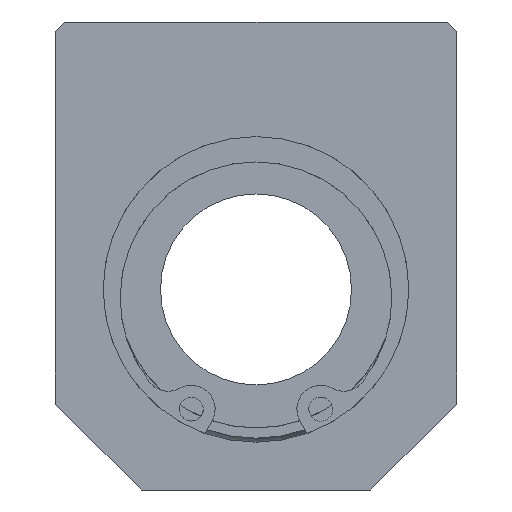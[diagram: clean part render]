
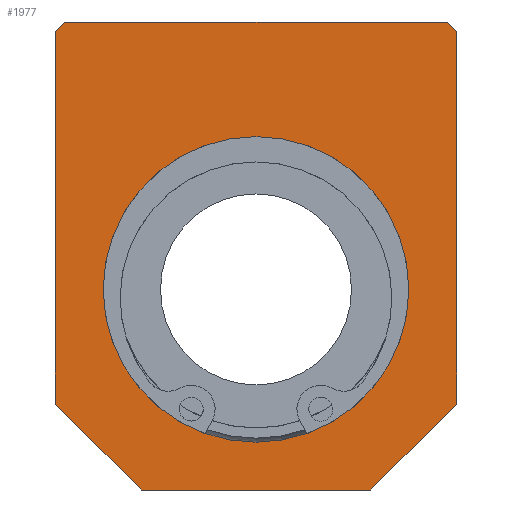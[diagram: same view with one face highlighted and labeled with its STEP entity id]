
A CAD part, left-side view. The second image highlights one B-rep face of the part: STEP entity #1977.
In plain terms, the highlighted planar face has unit normal (-1, 0, 0).
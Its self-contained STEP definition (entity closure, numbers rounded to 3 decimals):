
#1879=CARTESIAN_POINT('',(0.0,-20.,28.0));
#1880=VERTEX_POINT('',#1879);
#1887=CARTESIAN_POINT('',(0.0,-21.,27.));
#1888=VERTEX_POINT('',#1887);
#1889=CARTESIAN_POINT('',(0.0,-20.,28.0));
#1890=DIRECTION('',(0.0,-0.707,-0.707));
#1891=VECTOR('',#1890,1.414);
#1892=LINE('',#1889,#1891);
#1893=EDGE_CURVE('',#1880,#1888,#1892,.T.);
#1904=CARTESIAN_POINT('',(0.0,0.0,3.5));
#1905=DIRECTION('',(1.0,0.0,0.0));
#1906=DIRECTION('',(0.0,0.0,-1.0));
#1907=AXIS2_PLACEMENT_3D('',#1904,#1905,#1906);
#1908=PLANE('',#1907);
#1909=ORIENTED_EDGE('',*,*,#1893,.F.);
#1910=CARTESIAN_POINT('',(0.0,20.0,28.0));
#1911=VERTEX_POINT('',#1910);
#1912=CARTESIAN_POINT('',(0.0,-20.,28.0));
#1913=DIRECTION('',(0.0,1.0,0.0));
#1914=VECTOR('',#1913,40.0);
#1915=LINE('',#1912,#1914);
#1916=EDGE_CURVE('',#1880,#1911,#1915,.T.);
#1917=ORIENTED_EDGE('',*,*,#1916,.T.);
#1918=CARTESIAN_POINT('',(0.0,21.,27.));
#1919=VERTEX_POINT('',#1918);
#1920=CARTESIAN_POINT('',(0.0,21.,27.));
#1921=DIRECTION('',(0.0,-0.707,0.707));
#1922=VECTOR('',#1921,1.414);
#1923=LINE('',#1920,#1922);
#1924=EDGE_CURVE('',#1919,#1911,#1923,.T.);
#1925=ORIENTED_EDGE('',*,*,#1924,.F.);
#1926=CARTESIAN_POINT('',(0.0,21.,-12.));
#1927=VERTEX_POINT('',#1926);
#1928=CARTESIAN_POINT('',(0.0,21.,27.));
#1929=DIRECTION('',(0.0,0.0,-1.0));
#1930=VECTOR('',#1929,39.);
#1931=LINE('',#1928,#1930);
#1932=EDGE_CURVE('',#1919,#1927,#1931,.T.);
#1933=ORIENTED_EDGE('',*,*,#1932,.T.);
#1934=CARTESIAN_POINT('',(0.0,12.,-21.));
#1935=VERTEX_POINT('',#1934);
#1936=CARTESIAN_POINT('',(0.0,12.,-21.));
#1937=DIRECTION('',(0.0,0.707,0.707));
#1938=VECTOR('',#1937,12.728);
#1939=LINE('',#1936,#1938);
#1940=EDGE_CURVE('',#1935,#1927,#1939,.T.);
#1941=ORIENTED_EDGE('',*,*,#1940,.F.);
#1942=CARTESIAN_POINT('',(0.0,-12.,-21.));
#1943=VERTEX_POINT('',#1942);
#1944=CARTESIAN_POINT('',(0.0,12.,-21.));
#1945=DIRECTION('',(0.0,-1.0,0.0));
#1946=VECTOR('',#1945,24.);
#1947=LINE('',#1944,#1946);
#1948=EDGE_CURVE('',#1935,#1943,#1947,.T.);
#1949=ORIENTED_EDGE('',*,*,#1948,.T.);
#1950=CARTESIAN_POINT('',(0.0,-21.,-12.));
#1951=VERTEX_POINT('',#1950);
#1952=CARTESIAN_POINT('',(0.0,-21.,-12.));
#1953=DIRECTION('',(0.0,0.707,-0.707));
#1954=VECTOR('',#1953,12.728);
#1955=LINE('',#1952,#1954);
#1956=EDGE_CURVE('',#1951,#1943,#1955,.T.);
#1957=ORIENTED_EDGE('',*,*,#1956,.F.);
#1958=CARTESIAN_POINT('',(0.0,-21.,-12.));
#1959=DIRECTION('',(0.0,0.0,1.0));
#1960=VECTOR('',#1959,39.);
#1961=LINE('',#1958,#1960);
#1962=EDGE_CURVE('',#1951,#1888,#1961,.T.);
#1963=ORIENTED_EDGE('',*,*,#1962,.T.);
#1964=EDGE_LOOP('',(#1909,#1917,#1925,#1933,#1941,#1949,#1957,#1963));
#1965=FACE_OUTER_BOUND('',#1964,.T.);
#1966=CARTESIAN_POINT('',(0.0,16.0,0.));
#1967=VERTEX_POINT('',#1966);
#1968=CARTESIAN_POINT('',(0.0,0.0,0.0));
#1969=DIRECTION('',(1.0,0.0,0.0));
#1970=DIRECTION('',(0.0,-1.0,0.0));
#1971=AXIS2_PLACEMENT_3D('',#1968,#1969,#1970);
#1972=CIRCLE('',#1971,16.0);
#1973=EDGE_CURVE('',#1967,#1967,#1972,.T.);
#1974=ORIENTED_EDGE('',*,*,#1973,.T.);
#1975=EDGE_LOOP('',(#1974));
#1976=FACE_BOUND('',#1975,.T.);
#1977=ADVANCED_FACE('',(#1965,#1976),#1908,.F.);
